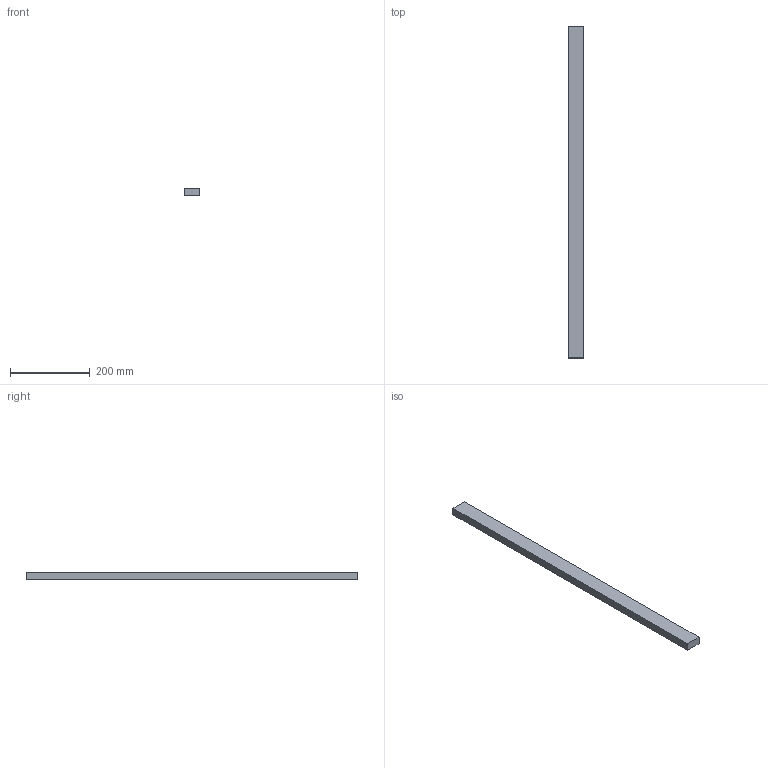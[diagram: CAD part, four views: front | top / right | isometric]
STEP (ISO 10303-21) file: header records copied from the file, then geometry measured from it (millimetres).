
FILE_DESCRIPTION(/* description */ (''),/* implementation_level */ '2;1');
FILE_NAME(/* name */ '4.frame-door#4.2#HFS5-2040-830',/* time_stamp */ '2014-12-01T20:12:33+01:00',/* author */ (''),/* organization */ (''),/* preprocessor_version */ 'ST-DEVELOPER v14',/* originating_system */ '',/* authorisation */ '');
FILE_SCHEMA (('AUTOMOTIVE_DESIGN'));
Length unit declared in the file: millimetre
Products named in the file (1): Document
Bounding box: 40 x 830 x 20 mm (x, y, z)
Volume: 664000 mm3; surface area: 101200 mm2
Topology: 1 solids, 1 shells, 6 faces, 12 edges, 8 vertices
Faces by surface type: plane 6
Entity records: 298 total; most frequent: CARTESIAN_POINT 88, B_SPLINE_CURVE_WITH_KNOTS 36, ORIENTED_EDGE 24, PCURVE 24, DEFINITIONAL_REPRESENTATION 24, SURFACE_CURVE 12, EDGE_CURVE 12, DIRECTION 10
